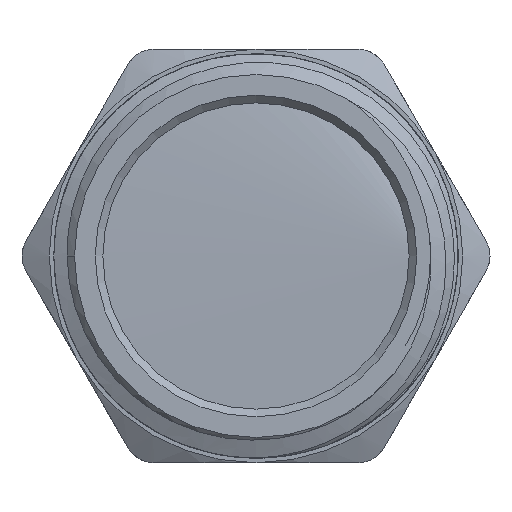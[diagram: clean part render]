
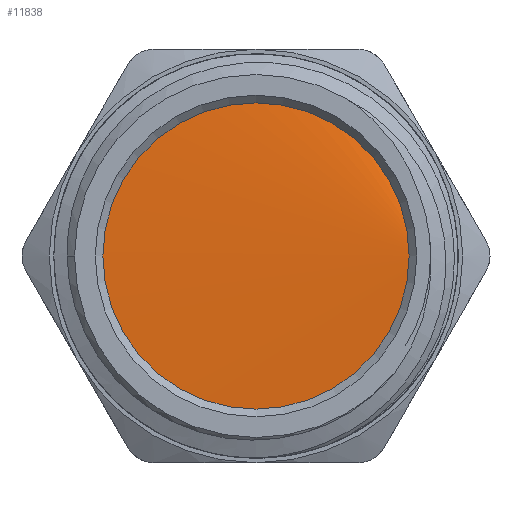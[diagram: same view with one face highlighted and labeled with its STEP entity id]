
A CAD part, left-side view. The second image highlights one B-rep face of the part: STEP entity #11838.
In plain terms, the highlighted cylindrical face has radius 11.4 mm (diameter 22.8 mm), a full revolution.
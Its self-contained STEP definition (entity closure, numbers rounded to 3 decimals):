
#433=B_SPLINE_CURVE_WITH_KNOTS('',3,(#15335,#15336,#15337,#15338,#15339,
#15340,#15341,#15342,#15343,#15344,#15345,#15346,#15347,#15348,#15349,#15350,
#15351),.UNSPECIFIED.,.F.,.F.,(4,1,1,1,1,1,1,1,1,1,1,1,1,1,4),(9.425,
9.561,10.055,10.549,11.042,11.536,
12.03,12.524,13.018,13.511,14.005,
14.499,14.993,15.487,15.708),
 .UNSPECIFIED.);
#1231=LINE('',#15332,#1995);
#1232=LINE('',#15334,#1996);
#1995=VECTOR('',#13233,11.4);
#1996=VECTOR('',#13234,11.4);
#2758=CYLINDRICAL_SURFACE('',#12550,11.4);
#2916=FACE_OUTER_BOUND('',#3601,.T.);
#3601=EDGE_LOOP('',(#7867,#7868,#7869));
#4678=VERTEX_POINT('',#15330);
#4679=VERTEX_POINT('',#15331);
#4680=VERTEX_POINT('',#15333);
#5958=EDGE_CURVE('',#4678,#4679,#1231,.T.);
#5959=EDGE_CURVE('',#4680,#4678,#1232,.T.);
#5960=EDGE_CURVE('',#4680,#4679,#433,.T.);
#7867=ORIENTED_EDGE('',*,*,#5958,.F.);
#7868=ORIENTED_EDGE('',*,*,#5959,.F.);
#7869=ORIENTED_EDGE('',*,*,#5960,.T.);
#11838=ADVANCED_FACE('',(#2916),#2758,.T.);
#12550=AXIS2_PLACEMENT_3D('',#15329,#13231,#13232);
#13231=DIRECTION('center_axis',(1.,0.,0.));
#13232=DIRECTION('ref_axis',(0.,1.,0.));
#13233=DIRECTION('',(1.,0.,0.));
#13234=DIRECTION('',(1.,0.,0.));
#15329=CARTESIAN_POINT('Origin',(-20.4,0.,0.));
#15330=CARTESIAN_POINT('',(-17.6,-11.4,0.));
#15331=CARTESIAN_POINT('',(-15.9,-11.4,0.));
#15332=CARTESIAN_POINT('',(-20.4,-11.4,0.));
#15333=CARTESIAN_POINT('',(-17.7,-11.4,0.));
#15334=CARTESIAN_POINT('',(-20.4,-11.4,0.));
#15335=CARTESIAN_POINT('Ctrl Pts',(-17.7,-11.4,0.));
#15336=CARTESIAN_POINT('Ctrl Pts',(-17.687,-11.4,
-0.518));
#15337=CARTESIAN_POINT('Ctrl Pts',(-17.627,-11.24,
-2.912));
#15338=CARTESIAN_POINT('Ctrl Pts',(-17.52,-9.594,-6.996));
#15339=CARTESIAN_POINT('Ctrl Pts',(-17.378,-5.132,
-10.707));
#15340=CARTESIAN_POINT('Ctrl Pts',(-17.237,0.556,
-11.861));
#15341=CARTESIAN_POINT('Ctrl Pts',(-17.095,6.111,-10.18));
#15342=CARTESIAN_POINT('Ctrl Pts',(-16.954,10.206,-6.068));
#15343=CARTESIAN_POINT('Ctrl Pts',(-16.812,11.863,-0.505));
#15344=CARTESIAN_POINT('Ctrl Pts',(-16.671,10.685,5.178));
#15345=CARTESIAN_POINT('Ctrl Pts',(-16.529,6.955,9.624));
#15346=CARTESIAN_POINT('Ctrl Pts',(-16.388,1.562,11.771));
#15347=CARTESIAN_POINT('Ctrl Pts',(-16.246,-4.203,
11.105));
#15348=CARTESIAN_POINT('Ctrl Pts',(-16.105,-8.965,
7.786));
#15349=CARTESIAN_POINT('Ctrl Pts',(-15.989,-11.102,
3.559));
#15350=CARTESIAN_POINT('Ctrl Pts',(-15.921,-11.399,
0.841));
#15351=CARTESIAN_POINT('Ctrl Pts',(-15.9,-11.399,0.));
